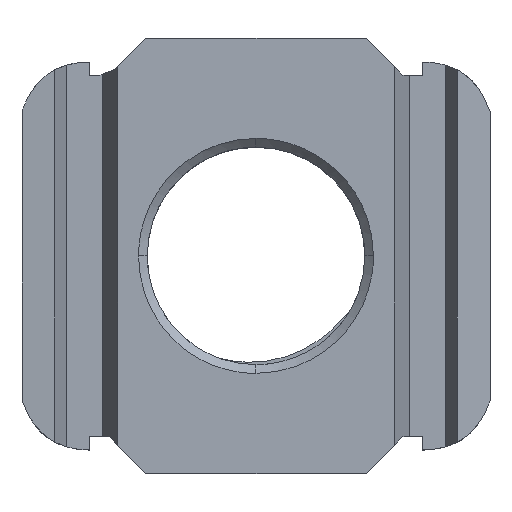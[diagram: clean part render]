
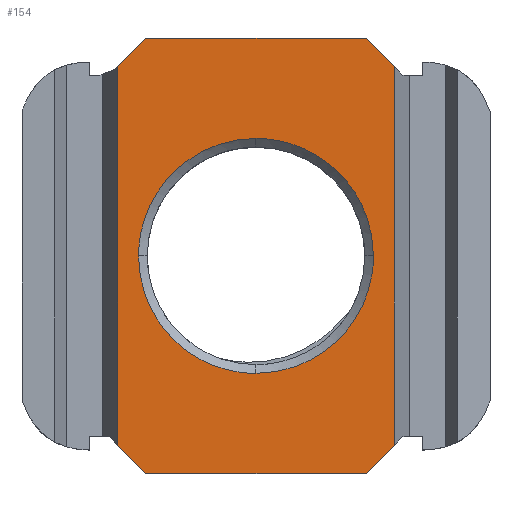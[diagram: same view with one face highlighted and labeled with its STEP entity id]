
A CAD part, top view. The second image highlights one B-rep face of the part: STEP entity #154.
In plain terms, the highlighted planar face has unit normal (0, 0, 1).
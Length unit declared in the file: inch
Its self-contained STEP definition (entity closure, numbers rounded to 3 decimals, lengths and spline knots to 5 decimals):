
#154=ADVANCED_FACE('',(#304,#305),#306,.T.);
#304=FACE_OUTER_BOUND('',#2753,.T.);
#305=FACE_BOUND('',#2754,.T.);
#306=PLANE('',#2755);
#2753=EDGE_LOOP('',(#3209,#3210,#3211,#3212,#3213,#3214,#3215,#3216));
#2754=EDGE_LOOP('',(#3217,#3218,#3219,#3220));
#2755=AXIS2_PLACEMENT_3D('',#3221,#3222,#3223);
#3209=ORIENTED_EDGE('',*,*,#3393,.T.);
#3210=ORIENTED_EDGE('',*,*,#3349,.F.);
#3211=ORIENTED_EDGE('',*,*,#3404,.T.);
#3212=ORIENTED_EDGE('',*,*,#3386,.F.);
#3213=ORIENTED_EDGE('',*,*,#3371,.T.);
#3214=ORIENTED_EDGE('',*,*,#3406,.T.);
#3215=ORIENTED_EDGE('',*,*,#3375,.T.);
#3216=ORIENTED_EDGE('',*,*,#3396,.T.);
#3217=ORIENTED_EDGE('',*,*,#3296,.F.);
#3218=ORIENTED_EDGE('',*,*,#3413,.F.);
#3219=ORIENTED_EDGE('',*,*,#3318,.F.);
#3220=ORIENTED_EDGE('',*,*,#3379,.F.);
#3221=CARTESIAN_POINT('',(0.31661,1.25,0.375));
#3222=DIRECTION('',(0.0,0.0,1.0));
#3223=DIRECTION('',(-1.0,0.0,0.0));
#3296=EDGE_CURVE('',#3507,#3509,#3510,.T.);
#3318=EDGE_CURVE('',#3540,#3536,#3542,.T.);
#3349=EDGE_CURVE('',#3588,#3590,#3591,.T.);
#3371=EDGE_CURVE('',#3617,#3615,#3618,.T.);
#3375=EDGE_CURVE('',#3623,#3621,#3624,.T.);
#3379=EDGE_CURVE('',#3509,#3540,#3629,.T.);
#3386=EDGE_CURVE('',#3617,#3636,#3638,.T.);
#3393=EDGE_CURVE('',#3645,#3590,#3646,.T.);
#3396=EDGE_CURVE('',#3621,#3645,#3649,.T.);
#3404=EDGE_CURVE('',#3588,#3636,#3657,.T.);
#3406=EDGE_CURVE('',#3615,#3623,#3659,.T.);
#3413=EDGE_CURVE('',#3536,#3507,#3666,.T.);
#3507=VERTEX_POINT('',#3946);
#3509=VERTEX_POINT('',#3949);
#3510=B_SPLINE_CURVE_WITH_KNOTS('',3,(#3950,#3951,#3952,#3953,#3954,#3955,#3956,#3957,#3958,#3959,#3960,#3961,#3962,#3963),.UNSPECIFIED.,.F.,.F.,(4,2,2,2,2,2,4),(0.0,0.07016,0.13827,0.26377,0.27021,0.39856,0.52753),.UNSPECIFIED.);
#3536=VERTEX_POINT('',#4251);
#3540=VERTEX_POINT('',#4267);
#3542=B_SPLINE_CURVE_WITH_KNOTS('',3,(#4270,#4271,#4272,#4273,#4274,#4275,#4276,#4277,#4278,#4279,#4280,#4281),.UNSPECIFIED.,.F.,.F.,(4,2,2,2,2,4),(0.0,0.13135,0.2634,0.26341,0.39546,0.52681),.UNSPECIFIED.);
#3588=VERTEX_POINT('',#4369);
#3590=VERTEX_POINT('',#4372);
#3591=LINE('',#4373,#4374);
#3615=VERTEX_POINT('',#4425);
#3617=VERTEX_POINT('',#4428);
#3618=LINE('',#4429,#4430);
#3621=VERTEX_POINT('',#4434);
#3623=VERTEX_POINT('',#4437);
#3624=LINE('',#4438,#4439);
#3629=B_SPLINE_CURVE_WITH_KNOTS('',3,(#4446,#4447,#4448,#4449,#4450,#4451,#4452,#4453,#4454,#4455,#4456,#4457,#4458,#4459),.UNSPECIFIED.,.F.,.F.,(4,2,2,2,2,2,4),(0.0,0.00458,0.13763,0.26345,0.26958,0.39793,0.52689),.UNSPECIFIED.);
#3636=VERTEX_POINT('',#4481);
#3638=LINE('',#4484,#4485);
#3645=VERTEX_POINT('',#4507);
#3646=LINE('',#4508,#4509);
#3649=LINE('',#4513,#4514);
#3657=LINE('',#4524,#4525);
#3659=LINE('',#4527,#4528);
#3666=B_SPLINE_CURVE_WITH_KNOTS('',3,(#4543,#4544,#4545,#4546,#4547,#4548,#4549,#4550,#4551,#4552,#4553,#4554,#4555,#4556),.UNSPECIFIED.,.F.,.F.,(4,2,2,2,2,2,4),(0.0,0.12897,0.25732,0.26345,0.38927,0.52231,0.52689),.UNSPECIFIED.);
#3946=CARTESIAN_POINT('',(0.31661,0.96243,0.375));
#3949=CARTESIAN_POINT('',(-0.02089,0.62493,0.375));
#3950=CARTESIAN_POINT('',(0.31661,0.96243,0.375));
#3951=CARTESIAN_POINT('',(0.29322,0.96243,0.375));
#3952=CARTESIAN_POINT('',(0.26971,0.96002,0.375));
#3953=CARTESIAN_POINT('',(0.22461,0.95053,0.375));
#3954=CARTESIAN_POINT('',(0.20276,0.94355,0.375));
#3955=CARTESIAN_POINT('',(0.14359,0.91778,0.375));
#3956=CARTESIAN_POINT('',(0.10779,0.89337,0.375));
#3957=CARTESIAN_POINT('',(0.07661,0.86224,0.375));
#3958=CARTESIAN_POINT('',(0.07511,0.8607,0.375));
#3959=CARTESIAN_POINT('',(0.04392,0.82836,0.375));
#3960=CARTESIAN_POINT('',(0.01973,0.7912,0.375));
#3961=CARTESIAN_POINT('',(-0.01247,0.7117,0.375));
#3962=CARTESIAN_POINT('',(-0.02089,0.66792,0.375));
#3963=CARTESIAN_POINT('',(-0.02089,0.62493,0.375));
#4251=CARTESIAN_POINT('',(0.65411,0.62493,0.375));
#4267=CARTESIAN_POINT('',(0.31661,0.28743,0.375));
#4270=CARTESIAN_POINT('',(0.31661,0.28743,0.375));
#4271=CARTESIAN_POINT('',(0.36039,0.28743,0.375));
#4272=CARTESIAN_POINT('',(0.405,0.29618,0.375));
#4273=CARTESIAN_POINT('',(0.48614,0.32973,0.375));
#4274=CARTESIAN_POINT('',(0.52413,0.35516,0.375));
#4275=CARTESIAN_POINT('',(0.55526,0.38628,0.375));
#4276=CARTESIAN_POINT('',(0.55526,0.38629,0.375));
#4277=CARTESIAN_POINT('',(0.58639,0.41741,0.375));
#4278=CARTESIAN_POINT('',(0.61182,0.4554,0.375));
#4279=CARTESIAN_POINT('',(0.64536,0.53654,0.375));
#4280=CARTESIAN_POINT('',(0.65411,0.58115,0.375));
#4281=CARTESIAN_POINT('',(0.65411,0.62493,0.375));
#4369=CARTESIAN_POINT('',(0.71396,1.16914,0.375));
#4372=CARTESIAN_POINT('',(0.71396,0.08074,0.375));
#4373=CARTESIAN_POINT('',(0.71396,1.25,0.375));
#4374=VECTOR('',#4611,1.);
#4425=CARTESIAN_POINT('',(-0.08074,1.16914,0.375));
#4428=CARTESIAN_POINT('',(0.00012,1.25,0.375));
#4429=CARTESIAN_POINT('',(0.05277,1.30265,0.375));
#4430=VECTOR('',#4621,1.0);
#4434=CARTESIAN_POINT('',(0.,0.,0.375));
#4437=CARTESIAN_POINT('',(-0.08074,0.08074,0.375));
#4438=CARTESIAN_POINT('',(-0.25976,0.25976,0.375));
#4439=VECTOR('',#4624,1.0);
#4446=CARTESIAN_POINT('',(-0.02089,0.62493,0.375));
#4447=CARTESIAN_POINT('',(-0.02089,0.6234,0.375));
#4448=CARTESIAN_POINT('',(-0.02088,0.62188,0.375));
#4449=CARTESIAN_POINT('',(-0.02027,0.576,0.375));
#4450=CARTESIAN_POINT('',(-0.01066,0.53092,0.375));
#4451=CARTESIAN_POINT('',(0.02381,0.45181,0.375));
#4452=CARTESIAN_POINT('',(0.0483,0.41593,0.375));
#4453=CARTESIAN_POINT('',(0.07946,0.38479,0.375));
#4454=CARTESIAN_POINT('',(0.08092,0.38335,0.375));
#4455=CARTESIAN_POINT('',(0.1132,0.35224,0.375));
#4456=CARTESIAN_POINT('',(0.15035,0.32804,0.375));
#4457=CARTESIAN_POINT('',(0.22985,0.29585,0.375));
#4458=CARTESIAN_POINT('',(0.27362,0.28743,0.375));
#4459=CARTESIAN_POINT('',(0.31661,0.28743,0.375));
#4481=CARTESIAN_POINT('',(0.6331,1.25,0.375));
#4484=CARTESIAN_POINT('',(-0.08074,1.25,0.375));
#4485=VECTOR('',#4630,1.0);
#4507=CARTESIAN_POINT('',(0.63322,0.,0.375));
#4508=CARTESIAN_POINT('',(0.89298,0.25976,0.375));
#4509=VECTOR('',#4633,1.0);
#4513=CARTESIAN_POINT('',(-0.08074,0.,0.375));
#4514=VECTOR('',#4635,1.0);
#4524=CARTESIAN_POINT('',(0.58045,1.30265,0.375));
#4525=VECTOR('',#4638,1.0);
#4527=CARTESIAN_POINT('',(-0.08074,1.25,0.375));
#4528=VECTOR('',#4639,1.);
#4543=CARTESIAN_POINT('',(0.65411,0.62493,0.375));
#4544=CARTESIAN_POINT('',(0.65411,0.66792,0.375));
#4545=CARTESIAN_POINT('',(0.64569,0.7117,0.375));
#4546=CARTESIAN_POINT('',(0.61349,0.7912,0.375));
#4547=CARTESIAN_POINT('',(0.5893,0.82836,0.375));
#4548=CARTESIAN_POINT('',(0.55819,0.86063,0.375));
#4549=CARTESIAN_POINT('',(0.55675,0.86209,0.375));
#4550=CARTESIAN_POINT('',(0.52561,0.89325,0.375));
#4551=CARTESIAN_POINT('',(0.48973,0.91774,0.375));
#4552=CARTESIAN_POINT('',(0.41062,0.9522,0.375));
#4553=CARTESIAN_POINT('',(0.36554,0.96181,0.375));
#4554=CARTESIAN_POINT('',(0.31966,0.96242,0.375));
#4555=CARTESIAN_POINT('',(0.31814,0.96243,0.375));
#4556=CARTESIAN_POINT('',(0.31661,0.96243,0.375));
#4611=DIRECTION('',(0.0,-1.0,0.0));
#4621=DIRECTION('',(-0.707,-0.707,0.0));
#4624=DIRECTION('',(0.707,-0.707,0.0));
#4630=DIRECTION('',(1.0,0.0,0.0));
#4633=DIRECTION('',(0.707,0.707,0.0));
#4635=DIRECTION('',(1.0,0.0,0.0));
#4638=DIRECTION('',(-0.707,0.707,0.0));
#4639=DIRECTION('',(0.0,-1.0,0.0));
